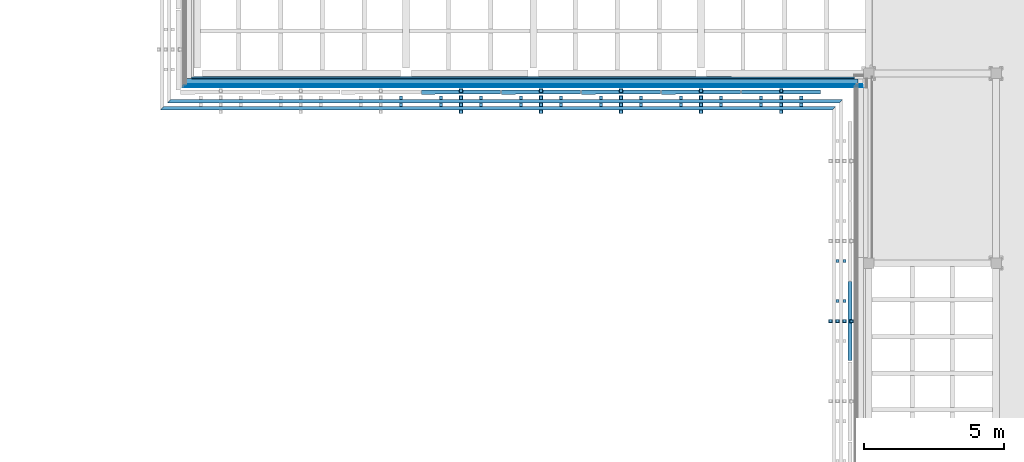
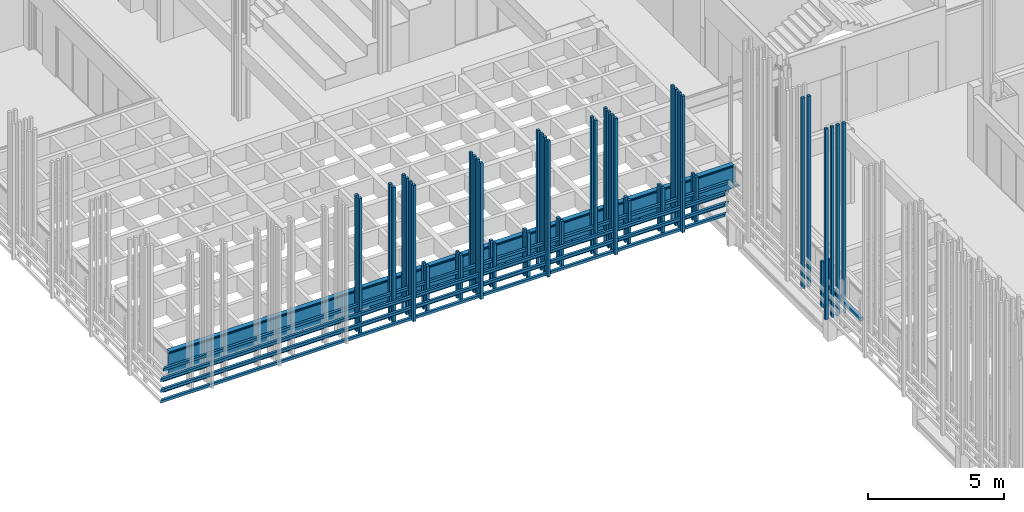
# One storey, part 74 of 139: 28 discrete accessories, 6 building element parts, 1 element without a shape of its own.
"""IFC2X3 building model written with IfcOpenShell, lengths in millimetres."""

from ifc_helpers import new_model, entity, si_unit, converted_unit, derived_unit, money_unit, direction, frame, origin_with_axes, place, context, subcontext, project, spatial, faceted_brep, material, material_list, type_object, element, aggregate, save


model = new_model("IFC2X3")

# Units and contexts
model_context = context("Model", 3, precision=0.01, world=origin_with_axes(), true_north=direction((0.0, 1.0)))
body_context = subcontext(model_context, "Body", "Model", "MODEL_VIEW")
ifc_project = project(units=[si_unit("LENGTHUNIT", "METRE", prefix="MILLI"), si_unit("AREAUNIT", "SQUARE_METRE"), si_unit("VOLUMEUNIT", "CUBIC_METRE"), converted_unit("PLANEANGLEUNIT", "DEGREE", entity("IfcPlaneAngleMeasure", 0.0174532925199), si_unit("PLANEANGLEUNIT", "RADIAN"), dimensions=[0, 0, 0, 0, 0, 0, 0]), money_unit("EUR"), converted_unit("TIMEUNIT", "Year", entity("IfcTimeMeasure", 31556926.0), si_unit("TIMEUNIT", "SECOND"), dimensions=[0, 0, 1, 0, 0, 0, 0]), si_unit("MASSUNIT", "GRAM", prefix="KILO"), si_unit("THERMODYNAMICTEMPERATUREUNIT", "DEGREE_CELSIUS"), si_unit("LUMINOUSINTENSITYUNIT", "LUMEN"), si_unit("ENERGYUNIT", "JOULE", prefix="MEGA"), derived_unit("THERMALCONDUCTANCEUNIT", [(si_unit("POWERUNIT", "WATT"), 1), (si_unit("LENGTHUNIT", "METRE"), -1), (si_unit("THERMODYNAMICTEMPERATUREUNIT", "KELVIN"), -1)]), derived_unit("SPECIFICHEATCAPACITYUNIT", [(si_unit("ENERGYUNIT", "JOULE"), 1), (si_unit("MASSUNIT", "GRAM", prefix="KILO"), -1), (si_unit("THERMODYNAMICTEMPERATUREUNIT", "KELVIN"), -1)]), derived_unit("MASSDENSITYUNIT", [(si_unit("MASSUNIT", "GRAM", prefix="KILO"), 1), (si_unit("VOLUMEUNIT", "CUBIC_METRE"), -1)])], contexts=[model_context])

# Site, building, storey
site_placement = place(None, origin_with_axes())
site = spatial("IfcSite", under=ifc_project, at=site_placement, Name="Kolde pst 67a", CompositionType="ELEMENT")
building_placement = place(site_placement, origin_with_axes())
building = spatial("IfcBuilding", under=site, at=building_placement, Name="Riigigümnaasium", CompositionType="ELEMENT")
storey_placement = place(building_placement, frame((0.0, 0.0, 4600.0), z_axis=(0.0, 0.0, 1.0), x_axis=(1.0, 0.0, 0.0)))
storey = spatial("IfcBuildingStorey", under=building, at=storey_placement, Name="2. korrus", CompositionType="ELEMENT", Elevation=4600.0)

# Discrete accessories
ifc_material_1 = material(Name="_VÄLISVIIMISTLUS - sõrmjätkatud puitprussid 120x115mm, liitekohad vähemärgatavad, Platowood sõrmjätkatud kuusk või samaväärne; eeltöödeldud tuletõkkevõõbaga, tuletundlikkus B-s1, d0, Woodsafe Exterior WFX™ või samaväärne; kinnitused vastavalt EK osale")
ifc_material_list_1 = material_list([ifc_material_1, ifc_material_1, ifc_material_1, ifc_material_1])
discrete_accessory_type_1 = type_object("IfcDiscreteAccessoryType", Name="120 4-ne vertikaalne 870 x 115")
discrete_accessory_1_placement = place(storey_placement, frame((47687.9824571, 15366.869566, 2150.0), z_axis=(0.0, 0.0, 1.0), x_axis=(-0.999999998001, -6.32316306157e-05, 0.0)))
element("IfcDiscreteAccessory", 1, at=discrete_accessory_1_placement, inside=storey, type_object=discrete_accessory_type_1, material=ifc_material_list_1, Name="Päikesevarjestus", context=body_context, shape_type="Brep", body=[
    faceted_brep([(47.9851405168, -70.0, 0.0), (47.9851405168, -70.0, 519.999664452), (47.9851405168, -70.0, 669.999664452), (133.0, -70.0, 669.999664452), (133.0, -70.0, 8580.0), (13.0, -70.0, 8580.0), (13.0, -70.0, 0.0), (47.9924121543, 45.0, 519.999664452), (47.9924121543, 45.0, 0.0), (47.9924121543, 45.0, 669.999664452), (133.0, 45.0, 669.999664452), (133.0, 45.0, 8580.0), (13.0, 45.0, 8580.0), (13.0, 45.0, 0.0)], [[[0, 1, 2, 3, 4, 5, 6]], [[7, 1, 0, 8]], [[1, 7, 9, 2]], [[10, 3, 2, 9]], [[4, 3, 10, 11]], [[5, 4, 11, 12]], [[5, 12, 13, 6]], [[8, 0, 6, 13]], [[7, 8, 13, 12, 11, 10, 9]]]),
    faceted_brep([(383.0, 45.0, 0.0), (263.0, 45.0, 0.0), (263.0, 45.0, 8580.0), (383.0, 45.0, 8580.0), (383.0, -70.0, 0.0), (263.0, -70.0, 0.0), (263.0, -70.0, 8580.0), (383.0, -70.0, 8580.0)], [[[0, 1, 2, 3]], [[0, 4, 5, 1]], [[1, 5, 6, 2]], [[3, 2, 6, 7]], [[4, 0, 3, 7]], [[5, 4, 7, 6]]]),
    faceted_brep([(633.0, 45.0, 0.0), (513.0, 45.0, 0.0), (513.0, 45.0, 8580.0), (633.0, 45.0, 8580.0), (633.0, -70.0, 0.0), (513.0, -70.0, 0.0), (513.0, -70.0, 8580.0), (633.0, -70.0, 8580.0)], [[[0, 1, 2, 3]], [[0, 4, 5, 1]], [[1, 5, 6, 2]], [[3, 2, 6, 7]], [[4, 0, 3, 7]], [[5, 4, 7, 6]]]),
    faceted_brep([(883.0, 45.0, 0.0), (763.0, 45.0, 0.0), (763.0, 45.0, 8580.0), (883.0, 45.0, 8580.0), (883.0, -70.0, 0.0), (763.0, -70.0, 0.0), (763.0, -70.0, 8580.0), (883.0, -70.0, 8580.0)], [[[0, 1, 2, 3]], [[0, 4, 5, 1]], [[1, 5, 6, 2]], [[3, 2, 6, 7]], [[4, 0, 3, 7]], [[5, 4, 7, 6]]]),
])
discrete_accessory_2_placement = place(storey_placement, frame((33647.4928355, 23687.999745, 2150.0), z_axis=(0.0, 0.0, 1.0), x_axis=(-3.13999128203e-06, 0.999999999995, 0.0)))
element("IfcDiscreteAccessory", 2, at=discrete_accessory_2_placement, inside=storey, type_object=discrete_accessory_type_1, material=ifc_material_list_1, Name="Päikesevarjestus", context=body_context, shape_type="Brep", body=[
    faceted_brep([(-47.9186345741, 45.0, 519.999999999), (-47.9120337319, -70.0, 519.999999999), (-47.9120337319, -70.0, 669.999999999), (-47.9186345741, 45.0, 669.999999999), (-47.9120337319, -70.0, 0.0), (-47.9186345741, 45.0, 0.0), (-13.0, -70.0, 0.0), (-13.0, -70.0, 6130.0), (-133.0, -70.0, 6130.0), (-133.0, -70.0, 669.999999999), (-133.0, 45.0, 669.999999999), (-133.0, 45.0, 6130.0), (-13.0, 45.0, 6130.0), (-13.0, 45.0, 0.0)], [[[0, 1, 2, 3]], [[4, 1, 0, 5]], [[1, 4, 6, 7, 8, 9, 2]], [[3, 2, 9, 10]], [[5, 0, 3, 10, 11, 12, 13]], [[4, 5, 13, 6]], [[13, 12, 7, 6]], [[7, 12, 11, 8]], [[11, 10, 9, 8]]]),
    faceted_brep([(-383.0, -70.0, 0.0), (-263.0, -70.0, 0.0), (-263.0, -70.0, 6130.0), (-383.0, -70.0, 6130.0), (-383.0, 45.0, 0.0), (-263.0, 45.0, 0.0), (-263.0, 45.0, 6130.0), (-383.0, 45.0, 6130.0)], [[[0, 1, 2, 3]], [[0, 4, 5, 1]], [[1, 5, 6, 2]], [[3, 2, 6, 7]], [[4, 0, 3, 7]], [[5, 4, 7, 6]]]),
    faceted_brep([(-633.0, -70.0, 0.0), (-513.0, -70.0, 0.0), (-513.0, -70.0, 6130.0), (-633.0, -70.0, 6130.0), (-633.0, 45.0, 0.0), (-513.0, 45.0, 0.0), (-513.0, 45.0, 6130.0), (-633.0, 45.0, 6130.0)], [[[0, 1, 2, 3]], [[0, 4, 5, 1]], [[1, 5, 6, 2]], [[3, 2, 6, 7]], [[4, 0, 3, 7]], [[5, 4, 7, 6]]]),
    faceted_brep([(-883.0, -70.0, 0.0), (-763.0, -70.0, 0.0), (-763.0, -70.0, 6130.0), (-883.0, -70.0, 6130.0), (-883.0, 45.0, 0.0), (-763.0, 45.0, 0.0), (-763.0, 45.0, 6130.0), (-883.0, 45.0, 6130.0)], [[[0, 1, 2, 3]], [[0, 4, 5, 1]], [[1, 5, 6, 2]], [[3, 2, 6, 7]], [[4, 0, 3, 7]], [[5, 4, 7, 6]]]),
])
discrete_accessory_3_placement = place(storey_placement, frame((36507.4928343, 23687.999745, 2150.0), z_axis=(0.0, 0.0, 1.0), x_axis=(-3.13999128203e-06, 0.999999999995, 0.0)))
element("IfcDiscreteAccessory", 3, at=discrete_accessory_3_placement, inside=storey, type_object=discrete_accessory_type_1, material=ifc_material_list_1, Name="Päikesevarjestus", context=body_context, shape_type="Brep", body=[
    faceted_brep([(-47.9186345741, 45.0, 519.999999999), (-47.912033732, -70.0, 519.999999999), (-47.912033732, -70.0, 669.999999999), (-47.9186345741, 45.0, 669.999999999), (-47.912033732, -70.0, 0.0), (-47.9186345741, 45.0, 0.0), (-13.0, -70.0, 0.0), (-13.0, -70.0, 6130.0), (-133.0, -70.0, 6130.0), (-133.0, -70.0, 669.999999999), (-133.0, 45.0, 669.999999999), (-133.0, 45.0, 6130.0), (-13.0, 45.0, 6130.0), (-13.0, 45.0, 0.0)], [[[0, 1, 2, 3]], [[4, 1, 0, 5]], [[1, 4, 6, 7, 8, 9, 2]], [[3, 2, 9, 10]], [[5, 0, 3, 10, 11, 12, 13]], [[4, 5, 13, 6]], [[13, 12, 7, 6]], [[7, 12, 11, 8]], [[11, 10, 9, 8]]]),
    faceted_brep([(-383.0, -70.0, 0.0), (-263.0, -70.0, 0.0), (-263.0, -70.0, 6130.0), (-383.0, -70.0, 6130.0), (-383.0, 45.0, 0.0), (-263.0, 45.0, 0.0), (-263.0, 45.0, 6130.0), (-383.0, 45.0, 6130.0)], [[[0, 1, 2, 3]], [[0, 4, 5, 1]], [[1, 5, 6, 2]], [[3, 2, 6, 7]], [[4, 0, 3, 7]], [[5, 4, 7, 6]]]),
    faceted_brep([(-633.0, -70.0, 0.0), (-513.0, -70.0, 0.0), (-513.0, -70.0, 6130.0), (-633.0, -70.0, 6130.0), (-633.0, 45.0, 0.0), (-513.0, 45.0, 0.0), (-513.0, 45.0, 6130.0), (-633.0, 45.0, 6130.0)], [[[0, 1, 2, 3]], [[0, 4, 5, 1]], [[1, 5, 6, 2]], [[3, 2, 6, 7]], [[4, 0, 3, 7]], [[5, 4, 7, 6]]]),
    faceted_brep([(-883.0, -70.0, 0.0), (-763.0, -70.0, 0.0), (-763.0, -70.0, 6130.0), (-883.0, -70.0, 6130.0), (-883.0, 45.0, 0.0), (-763.0, 45.0, 0.0), (-763.0, 45.0, 6130.0), (-883.0, 45.0, 6130.0)], [[[0, 1, 2, 3]], [[0, 4, 5, 1]], [[1, 5, 6, 2]], [[3, 2, 6, 7]], [[4, 0, 3, 7]], [[5, 4, 7, 6]]]),
])
discrete_accessory_4_placement = place(storey_placement, frame((39367.492833, 23687.999745, 2150.0), z_axis=(0.0, 0.0, 1.0), x_axis=(-3.13999128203e-06, 0.999999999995, 0.0)))
element("IfcDiscreteAccessory", 4, at=discrete_accessory_4_placement, inside=storey, type_object=discrete_accessory_type_1, material=ifc_material_list_1, Name="Päikesevarjestus", context=body_context, shape_type="Brep", body=[
    faceted_brep([(-47.9186345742, 45.0, 519.999999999), (-47.9120337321, -70.0, 519.999999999), (-47.9120337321, -70.0, 669.999999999), (-47.9186345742, 45.0, 669.999999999), (-47.9120337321, -70.0, 0.0), (-47.9186345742, 45.0, 0.0), (-13.0, -70.0, 0.0), (-13.0, -70.0, 6130.0), (-133.0, -70.0, 6130.0), (-133.0, -70.0, 669.999999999), (-133.0, 45.0, 669.999999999), (-133.0, 45.0, 6130.0), (-13.0, 45.0, 6130.0), (-13.0, 45.0, 0.0)], [[[0, 1, 2, 3]], [[4, 1, 0, 5]], [[1, 4, 6, 7, 8, 9, 2]], [[3, 2, 9, 10]], [[5, 0, 3, 10, 11, 12, 13]], [[4, 5, 13, 6]], [[13, 12, 7, 6]], [[7, 12, 11, 8]], [[11, 10, 9, 8]]]),
    faceted_brep([(-383.0, -70.0, 0.0), (-263.0, -70.0, 0.0), (-263.0, -70.0, 6130.0), (-383.0, -70.0, 6130.0), (-383.0, 45.0, 0.0), (-263.0, 45.0, 0.0), (-263.0, 45.0, 6130.0), (-383.0, 45.0, 6130.0)], [[[0, 1, 2, 3]], [[0, 4, 5, 1]], [[1, 5, 6, 2]], [[3, 2, 6, 7]], [[4, 0, 3, 7]], [[5, 4, 7, 6]]]),
    faceted_brep([(-633.0, -70.0, 0.0), (-513.0, -70.0, 0.0), (-513.0, -70.0, 6130.0), (-633.0, -70.0, 6130.0), (-633.0, 45.0, 0.0), (-513.0, 45.0, 0.0), (-513.0, 45.0, 6130.0), (-633.0, 45.0, 6130.0)], [[[0, 1, 2, 3]], [[0, 4, 5, 1]], [[1, 5, 6, 2]], [[3, 2, 6, 7]], [[4, 0, 3, 7]], [[5, 4, 7, 6]]]),
    faceted_brep([(-883.0, -70.0, 0.0), (-763.0, -70.0, 0.0), (-763.0, -70.0, 6130.0), (-883.0, -70.0, 6130.0), (-883.0, 45.0, 0.0), (-763.0, 45.0, 0.0), (-763.0, 45.0, 6130.0), (-883.0, 45.0, 6130.0)], [[[0, 1, 2, 3]], [[0, 4, 5, 1]], [[1, 5, 6, 2]], [[3, 2, 6, 7]], [[4, 0, 3, 7]], [[5, 4, 7, 6]]]),
])
discrete_accessory_5_placement = place(storey_placement, frame((42227.4928071, 23687.999745, 2150.0), z_axis=(0.0, 0.0, 1.0), x_axis=(-3.13999128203e-06, 0.999999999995, 0.0)))
element("IfcDiscreteAccessory", 5, at=discrete_accessory_5_placement, inside=storey, type_object=discrete_accessory_type_1, material=ifc_material_list_1, Name="Päikesevarjestus", context=body_context, shape_type="Brep", body=[
    faceted_brep([(-47.9186345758, 45.0, 519.999999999), (-47.9120337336, -70.0, 519.999999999), (-47.9120337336, -70.0, 669.999999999), (-47.9186345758, 45.0, 669.999999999), (-47.9120337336, -70.0, 0.0), (-47.9186345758, 45.0, 0.0), (-13.0, -70.0, 0.0), (-13.0, -70.0, 6130.0), (-133.0, -70.0, 6130.0), (-133.0, -70.0, 669.999999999), (-133.0, 45.0, 669.999999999), (-133.0, 45.0, 6130.0), (-13.0, 45.0, 6130.0), (-13.0, 45.0, 0.0)], [[[0, 1, 2, 3]], [[4, 1, 0, 5]], [[1, 4, 6, 7, 8, 9, 2]], [[3, 2, 9, 10]], [[5, 0, 3, 10, 11, 12, 13]], [[4, 5, 13, 6]], [[13, 12, 7, 6]], [[7, 12, 11, 8]], [[11, 10, 9, 8]]]),
    faceted_brep([(-383.0, -70.0, 0.0), (-263.0, -70.0, 0.0), (-263.0, -70.0, 6130.0), (-383.0, -70.0, 6130.0), (-383.0, 45.0, 0.0), (-263.0, 45.0, 0.0), (-263.0, 45.0, 6130.0), (-383.0, 45.0, 6130.0)], [[[0, 1, 2, 3]], [[0, 4, 5, 1]], [[1, 5, 6, 2]], [[3, 2, 6, 7]], [[4, 0, 3, 7]], [[5, 4, 7, 6]]]),
    faceted_brep([(-633.0, -70.0, 0.0), (-513.0, -70.0, 0.0), (-513.0, -70.0, 6130.0), (-633.0, -70.0, 6130.0), (-633.0, 45.0, 0.0), (-513.0, 45.0, 0.0), (-513.0, 45.0, 6130.0), (-633.0, 45.0, 6130.0)], [[[0, 1, 2, 3]], [[0, 4, 5, 1]], [[1, 5, 6, 2]], [[3, 2, 6, 7]], [[4, 0, 3, 7]], [[5, 4, 7, 6]]]),
    faceted_brep([(-883.0, -70.0, 0.0), (-763.0, -70.0, 0.0), (-763.0, -70.0, 6130.0), (-883.0, -70.0, 6130.0), (-883.0, 45.0, 0.0), (-763.0, 45.0, 0.0), (-763.0, 45.0, 6130.0), (-883.0, 45.0, 6130.0)], [[[0, 1, 2, 3]], [[0, 4, 5, 1]], [[1, 5, 6, 2]], [[3, 2, 6, 7]], [[4, 0, 3, 7]], [[5, 4, 7, 6]]]),
])
discrete_accessory_6_placement = place(storey_placement, frame((45087.4927862, 23687.999745, 2150.0), z_axis=(0.0, 0.0, 1.0), x_axis=(-3.13999128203e-06, 0.999999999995, 0.0)))
element("IfcDiscreteAccessory", 6, at=discrete_accessory_6_placement, inside=storey, type_object=discrete_accessory_type_1, material=ifc_material_list_1, Name="Päikesevarjestus", context=body_context, shape_type="Brep", body=[
    faceted_brep([(-47.7454941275, 45.0, 519.999999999), (-47.7388932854, -70.0, 519.999999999), (-47.7388932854, -70.0, 669.999999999), (-47.7454941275, 45.0, 669.999999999), (-47.7388932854, -70.0, 0.0), (-47.7454941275, 45.0, 0.0), (-13.0, -70.0, 0.0), (-13.0, -70.0, 6130.0), (-133.0, -70.0, 6130.0), (-133.0, -70.0, 669.999999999), (-133.0, 45.0, 669.999999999), (-133.0, 45.0, 6130.0), (-13.0, 45.0, 6130.0), (-13.0, 45.0, 0.0)], [[[0, 1, 2, 3]], [[4, 1, 0, 5]], [[1, 4, 6, 7, 8, 9, 2]], [[3, 2, 9, 10]], [[5, 0, 3, 10, 11, 12, 13]], [[4, 5, 13, 6]], [[13, 12, 7, 6]], [[7, 12, 11, 8]], [[11, 10, 9, 8]]]),
    faceted_brep([(-383.0, -70.0, 0.0), (-263.0, -70.0, 0.0), (-263.0, -70.0, 6130.0), (-383.0, -70.0, 6130.0), (-383.0, 45.0, 0.0), (-263.0, 45.0, 0.0), (-263.0, 45.0, 6130.0), (-383.0, 45.0, 6130.0)], [[[0, 1, 2, 3]], [[0, 4, 5, 1]], [[1, 5, 6, 2]], [[3, 2, 6, 7]], [[4, 0, 3, 7]], [[5, 4, 7, 6]]]),
    faceted_brep([(-633.0, -70.0, 0.0), (-513.0, -70.0, 0.0), (-513.0, -70.0, 6130.0), (-633.0, -70.0, 6130.0), (-633.0, 45.0, 0.0), (-513.0, 45.0, 0.0), (-513.0, 45.0, 6130.0), (-633.0, 45.0, 6130.0)], [[[0, 1, 2, 3]], [[0, 4, 5, 1]], [[1, 5, 6, 2]], [[3, 2, 6, 7]], [[4, 0, 3, 7]], [[5, 4, 7, 6]]]),
    faceted_brep([(-883.0, -70.0, 0.0), (-763.0, -70.0, 0.0), (-763.0, -70.0, 6130.0), (-883.0, -70.0, 6130.0), (-883.0, 45.0, 0.0), (-763.0, 45.0, 0.0), (-763.0, 45.0, 6130.0), (-883.0, 45.0, 6130.0)], [[[0, 1, 2, 3]], [[0, 4, 5, 1]], [[1, 5, 6, 2]], [[3, 2, 6, 7]], [[4, 0, 3, 7]], [[5, 4, 7, 6]]]),
])
ifc_material_list_2 = material_list([ifc_material_1, ifc_material_1])
discrete_accessory_type_2 = type_object("IfcDiscreteAccessoryType", Name="1+paiksekaitse 4 tk nihkes 2 370 x 355")
discrete_accessory_7_placement = place(storey_placement, frame((23675.0058924, 23674.9999727, 2630.0), z_axis=(0.0, 0.0, 1.0), x_axis=(0.0, -1.0, 0.0)))
element("IfcDiscreteAccessory", 7, at=discrete_accessory_7_placement, inside=storey, type_object=discrete_accessory_type_2, material=ifc_material_list_2, Name="Päikesevarjestus", context=body_context, shape_type="Brep", body=[
    faceted_brep([(375.0, 23624.9782799, 347.001360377), (375.0, -375.0, 347.001360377), (495.0, -495.0, 357.5), (495.0, 23504.9784938, 357.5), (375.0, 23624.9782799, 242.5), (375.0, -375.0, 242.5), (495.0, -495.0, 242.5), (495.0, 23504.9784938, 242.5)], [[[0, 1, 2, 3]], [[4, 5, 1, 0]], [[5, 6, 2, 1]], [[3, 2, 6, 7]], [[4, 0, 3, 7]], [[7, 6, 5, 4]]]),
    faceted_brep([(625.0, 23374.9787255, 107.001360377), (625.0, -625.0, 107.001360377), (745.0, -745.0, 117.5), (745.0, 23254.9789394, 117.5), (625.0, 23374.9787255, 2.5), (625.0, -625.0, 2.5), (745.0, -745.0, 2.5), (745.0, 23254.9789394, 2.5)], [[[0, 1, 2, 3]], [[4, 5, 1, 0]], [[5, 6, 2, 1]], [[3, 2, 6, 7]], [[4, 0, 3, 7]], [[7, 6, 5, 4]]]),
])
discrete_accessory_8_placement = place(storey_placement, frame((23675.0058924, 23674.9999727, 3110.0), z_axis=(0.0, 0.0, 1.0), x_axis=(0.0, -1.0, 0.0)))
element("IfcDiscreteAccessory", 8, at=discrete_accessory_8_placement, inside=storey, type_object=discrete_accessory_type_2, material=ifc_material_list_2, Name="Päikesevarjestus", context=body_context, shape_type="Brep", body=[
    faceted_brep([(495.0, 23504.9784938, 357.5), (375.0, 23624.9782799, 347.001360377), (375.0, -375.0, 347.001360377), (495.0, -495.0, 357.5), (495.0, 23504.9784938, 242.5), (375.0, 23624.9782799, 242.5), (375.0, -375.0, 242.5), (495.0, -495.0, 242.5)], [[[0, 1, 2, 3]], [[4, 5, 1, 0]], [[1, 5, 6, 2]], [[2, 6, 7, 3]], [[4, 0, 3, 7]], [[5, 4, 7, 6]]]),
    faceted_brep([(625.0, 23374.9787255, 107.001360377), (625.0, -625.0, 107.001360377), (745.0, -745.0, 117.5), (745.0, 23254.9789394, 117.5), (625.0, 23374.9787255, 2.5), (625.0, -625.0, 2.5), (745.0, -745.0, 2.5), (745.0, 23254.9789394, 2.5)], [[[0, 1, 2, 3]], [[4, 5, 1, 0]], [[5, 6, 2, 1]], [[3, 2, 6, 7]], [[4, 0, 3, 7]], [[7, 6, 5, 4]]]),
])
discrete_accessory_9_placement = place(storey_placement, frame((23675.0058924, 23674.9999727, 2150.0), z_axis=(0.0, 0.0, 1.0), x_axis=(0.0, -1.0, 0.0)))
element("IfcDiscreteAccessory", 9, at=discrete_accessory_9_placement, inside=storey, type_object=discrete_accessory_type_2, material=ifc_material_list_2, Name="Päikesevarjestus", context=body_context, shape_type="Brep", body=[
    faceted_brep([(375.0, 23624.9782799, 347.001360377), (375.0, -375.0, 347.001360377), (495.0, -495.0, 357.5), (495.0, 23504.9784938, 357.5), (375.0, 23624.9782799, 242.5), (375.0, -375.0, 242.5), (495.0, -495.0, 242.5), (495.0, 23504.9784938, 242.5)], [[[0, 1, 2, 3]], [[4, 5, 1, 0]], [[5, 6, 2, 1]], [[3, 2, 6, 7]], [[4, 0, 3, 7]], [[7, 6, 5, 4]]]),
    faceted_brep([(625.0, 23374.9787255, 107.001360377), (625.0, -625.0, 107.001360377), (745.0, -745.0, 117.5), (745.0, 23254.9789394, 117.5), (625.0, 23374.9787255, 2.5), (625.0, -625.0, 2.5), (745.0, -745.0, 2.5), (745.0, 23254.9789394, 2.5)], [[[0, 1, 2, 3]], [[4, 5, 1, 0]], [[5, 6, 2, 1]], [[3, 2, 6, 7]], [[4, 0, 3, 7]], [[7, 6, 5, 4]]]),
])
discrete_accessory_type_3 = type_object("IfcDiscreteAccessoryType", Name="1+paiksekaitse 3 370 x 115")
discrete_accessory_10_placement = place(storey_placement, frame((31575.0059762, 22707.9999727, 2150.0), z_axis=(0.0, 0.0, 1.0), x_axis=(0.0, 1.0, 0.0)))
element("IfcDiscreteAccessory", 10, at=discrete_accessory_10_placement, inside=storey, type_object=discrete_accessory_type_3, material=ifc_material_list_2, Name="Päikesevarjestus", context=body_context, shape_type="Brep", body=[
    faceted_brep([(467.0, 117.5, 0.0), (347.0, 117.5, 0.0), (347.0, 117.5, 6130.0), (467.0, 117.5, 6130.0), (467.0, 2.5, 0.0), (347.0, 2.5, 0.0), (347.0, 2.5, 6130.0), (467.0, 2.5, 6130.0)], [[[0, 1, 2, 3]], [[0, 4, 5, 1]], [[1, 5, 6, 2]], [[3, 2, 6, 7]], [[4, 0, 3, 7]], [[5, 4, 7, 6]]]),
    faceted_brep([(717.0, 117.5, 0.0), (597.0, 117.5, 0.0), (597.0, 117.5, 6130.0), (717.0, 117.5, 6130.0), (717.0, 2.5, 0.0), (597.0, 2.5, 0.0), (597.0, 2.5, 6130.0), (717.0, 2.5, 6130.0)], [[[0, 1, 2, 3]], [[0, 4, 5, 1]], [[1, 5, 6, 2]], [[3, 2, 6, 7]], [[4, 0, 3, 7]], [[5, 4, 7, 6]]]),
])
discrete_accessory_11_placement = place(storey_placement, frame((40155.0059762, 22707.9999727, 2150.0), z_axis=(0.0, 0.0, 1.0), x_axis=(0.0, 1.0, 0.0)))
element("IfcDiscreteAccessory", 11, at=discrete_accessory_11_placement, inside=storey, type_object=discrete_accessory_type_3, material=ifc_material_list_2, Name="Päikesevarjestus", context=body_context, shape_type="Brep", body=[
    faceted_brep([(467.0, 117.5, 0.0), (347.0, 117.5, 0.0), (347.0, 117.5, 2099.99999915), (467.0, 117.5, 2099.99999915), (467.0, 2.5, 0.0), (347.0, 2.5, 0.0), (347.0, 2.5, 2099.99999915), (467.0, 2.5, 2099.99999915)], [[[0, 1, 2, 3]], [[0, 4, 5, 1]], [[1, 5, 6, 2]], [[3, 2, 6, 7]], [[4, 0, 3, 7]], [[5, 4, 7, 6]]]),
    faceted_brep([(717.0, 117.5, 0.0), (597.0, 117.5, 0.0), (597.0, 117.5, 2099.99999915), (717.0, 117.5, 2099.99999915), (717.0, 2.5, 0.0), (597.0, 2.5, 0.0), (597.0, 2.5, 2099.99999915), (717.0, 2.5, 2099.99999915)], [[[0, 1, 2, 3]], [[0, 4, 5, 1]], [[1, 5, 6, 2]], [[3, 2, 6, 7]], [[4, 0, 3, 7]], [[5, 4, 7, 6]]]),
])
discrete_accessory_12_placement = place(storey_placement, frame((41585.0059762, 22707.9999727, 2150.0), z_axis=(0.0, 0.0, 1.0), x_axis=(0.0, 1.0, 0.0)))
element("IfcDiscreteAccessory", 12, at=discrete_accessory_12_placement, inside=storey, type_object=discrete_accessory_type_3, material=ifc_material_list_2, Name="Päikesevarjestus", context=body_context, shape_type="Brep", body=[
    faceted_brep([(467.0, 117.5, 0.0), (347.0, 117.5, 0.0), (347.0, 117.5, 6130.0), (467.0, 117.5, 6130.0), (467.0, 2.5, 0.0), (347.0, 2.5, 0.0), (347.0, 2.5, 6130.0), (467.0, 2.5, 6130.0)], [[[0, 1, 2, 3]], [[0, 4, 5, 1]], [[1, 5, 6, 2]], [[3, 2, 6, 7]], [[4, 0, 3, 7]], [[5, 4, 7, 6]]]),
    faceted_brep([(717.0, 117.5, 0.0), (597.0, 117.5, 0.0), (597.0, 117.5, 6130.0), (717.0, 117.5, 6130.0), (717.0, 2.5, 0.0), (597.0, 2.5, 0.0), (597.0, 2.5, 6130.0), (717.0, 2.5, 6130.0)], [[[0, 1, 2, 3]], [[0, 4, 5, 1]], [[1, 5, 6, 2]], [[3, 2, 6, 7]], [[4, 0, 3, 7]], [[5, 4, 7, 6]]]),
])
discrete_accessory_13_placement = place(storey_placement, frame((43015.0059762, 22707.9999727, 2150.0), z_axis=(0.0, 0.0, 1.0), x_axis=(0.0, 1.0, 0.0)))
element("IfcDiscreteAccessory", 13, at=discrete_accessory_13_placement, inside=storey, type_object=discrete_accessory_type_3, material=ifc_material_list_2, Name="Päikesevarjestus", context=body_context, shape_type="Brep", body=[
    faceted_brep([(467.0, 117.5, 0.0), (347.0, 117.5, 0.0), (347.0, 117.5, 2040.0), (467.0, 117.5, 2040.0), (467.0, 2.5, 0.0), (347.0, 2.5, 0.0), (347.0, 2.5, 2040.0), (467.0, 2.5, 2040.0)], [[[0, 1, 2, 3]], [[0, 4, 5, 1]], [[1, 5, 6, 2]], [[3, 2, 6, 7]], [[4, 0, 3, 7]], [[5, 4, 7, 6]]]),
    faceted_brep([(717.0, 117.5, 0.0), (597.0, 117.5, 0.0), (597.0, 117.5, 2040.0), (717.0, 117.5, 2040.0), (717.0, 2.5, 0.0), (597.0, 2.5, 0.0), (597.0, 2.5, 2040.0), (717.0, 2.5, 2040.0)], [[[0, 1, 2, 3]], [[0, 4, 5, 1]], [[1, 5, 6, 2]], [[3, 2, 6, 7]], [[4, 0, 3, 7]], [[5, 4, 7, 6]]]),
])
discrete_accessory_14_placement = place(storey_placement, frame((33005.0059762, 22707.9999727, 2150.0), z_axis=(0.0, 0.0, 1.0), x_axis=(0.0, 1.0, 0.0)))
element("IfcDiscreteAccessory", 14, at=discrete_accessory_14_placement, inside=storey, type_object=discrete_accessory_type_3, material=ifc_material_list_2, Name="Päikesevarjestus", context=body_context, shape_type="Brep", body=[
    faceted_brep([(467.0, 117.5, 0.0), (347.0, 117.5, 0.0), (347.0, 117.5, 6130.0), (467.0, 117.5, 6130.0), (467.0, 2.5, 0.0), (347.0, 2.5, 0.0), (347.0, 2.5, 6130.0), (467.0, 2.5, 6130.0)], [[[0, 1, 2, 3]], [[0, 4, 5, 1]], [[1, 5, 6, 2]], [[3, 2, 6, 7]], [[4, 0, 3, 7]], [[5, 4, 7, 6]]]),
    faceted_brep([(717.0, 117.5, 0.0), (597.0, 117.5, 0.0), (597.0, 117.5, 6130.0), (717.0, 117.5, 6130.0), (717.0, 2.5, 0.0), (597.0, 2.5, 0.0), (597.0, 2.5, 6130.0), (717.0, 2.5, 6130.0)], [[[0, 1, 2, 3]], [[0, 4, 5, 1]], [[1, 5, 6, 2]], [[3, 2, 6, 7]], [[4, 0, 3, 7]], [[5, 4, 7, 6]]]),
])
for number, where, z_axis, x_axis in (
    (15, (34435.0059762, 22707.9999727, 2150.0), (0.0, 0.0, 1.0), (0.0, 1.0, 0.0)),
    (16, (35865.0059762, 22707.9999727, 2150.0), (0.0, 0.0, 1.0), (0.0, 1.0, 0.0)),
    (17, (37295.0059762, 22707.9999727, 2150.0), (0.0, 0.0, 1.0), (0.0, 1.0, 0.0)),
    (18, (38725.0059762, 22707.9999727, 2150.0), (0.0, 0.0, 1.0), (0.0, 1.0, 0.0)),
    (19, (44445.0059762, 22707.9999727, 2150.0), (0.0, 0.0, 1.0), (0.0, 1.0, 0.0)),
    (20, (45875.0059762, 22707.9999727, 2150.0), (0.0, 0.0, 1.0), (0.0, 1.0, 0.0)),
):
    element("IfcDiscreteAccessory", number, at=place(storey_placement, frame(where, z_axis=z_axis, x_axis=x_axis)), inside=storey, type_object=discrete_accessory_type_3, material=ifc_material_list_2, Name="Päikesevarjestus", context=body_context, shape_type="Brep", body=[
        faceted_brep([(467.0, 117.5, 0.0), (347.0, 117.5, 0.0), (347.0, 117.5, 2090.0), (467.0, 117.5, 2090.0), (467.0, 2.5, 0.0), (347.0, 2.5, 0.0), (347.0, 2.5, 2090.0), (467.0, 2.5, 2090.0)], [[[0, 1, 2, 3]], [[0, 4, 5, 1]], [[1, 5, 6, 2]], [[3, 2, 6, 7]], [[4, 0, 3, 7]], [[5, 4, 7, 6]]]),
        faceted_brep([(717.0, 117.5, 0.0), (597.0, 117.5, 0.0), (597.0, 117.5, 2090.0), (717.0, 117.5, 2090.0), (717.0, 2.5, 0.0), (597.0, 2.5, 0.0), (597.0, 2.5, 2090.0), (717.0, 2.5, 2090.0)], [[[0, 1, 2, 3]], [[0, 4, 5, 1]], [[1, 5, 6, 2]], [[3, 2, 6, 7]], [[4, 0, 3, 7]], [[5, 4, 7, 6]]]),
    ])
discrete_accessory_15_placement = place(storey_placement, frame((46707.9854612, 17464.9192401, 2150.0), z_axis=(0.0, 0.0, 1.0), x_axis=(1.0, 0.0, 0.0)))
element("IfcDiscreteAccessory", 21, at=discrete_accessory_15_placement, inside=storey, type_object=discrete_accessory_type_3, material=ifc_material_list_2, Name="Päikesevarjestus", context=body_context, shape_type="Brep", body=[
    faceted_brep([(467.0, 117.5, 0.0), (347.0, 117.5, 0.0), (347.0, 117.5, 8580.0), (467.0, 117.5, 8580.0), (467.0, 2.5, 0.0), (347.0, 2.5, 0.0), (347.0, 2.5, 8580.0), (467.0, 2.5, 8580.0)], [[[0, 1, 2, 3]], [[0, 4, 5, 1]], [[1, 5, 6, 2]], [[3, 2, 6, 7]], [[4, 0, 3, 7]], [[5, 4, 7, 6]]]),
    faceted_brep([(717.0, 117.5, 0.0), (597.0, 117.5, 0.0), (597.0, 117.5, 8580.0), (717.0, 117.5, 8580.0), (717.0, 2.5, 0.0), (597.0, 2.5, 0.0), (597.0, 2.5, 8580.0), (717.0, 2.5, 8580.0)], [[[0, 1, 2, 3]], [[0, 4, 5, 1]], [[1, 5, 6, 2]], [[3, 2, 6, 7]], [[4, 0, 3, 7]], [[5, 4, 7, 6]]]),
])
discrete_accessory_16_placement = place(storey_placement, frame((46707.9854612, 16034.9192401, 2150.0), z_axis=(0.0, 0.0, 1.0), x_axis=(1.0, 0.0, 0.0)))
element("IfcDiscreteAccessory", 22, at=discrete_accessory_16_placement, inside=storey, type_object=discrete_accessory_type_3, material=ifc_material_list_2, Name="Päikesevarjestus", context=body_context, shape_type="Brep", body=[
    faceted_brep([(467.0, 117.5, 0.0), (347.0, 117.5, 0.0), (347.0, 117.5, 2090.0), (467.0, 117.5, 2090.0), (467.0, 2.5, 0.0), (347.0, 2.5, 0.0), (347.0, 2.5, 2090.0), (467.0, 2.5, 2090.0)], [[[0, 1, 2, 3]], [[0, 4, 5, 1]], [[1, 5, 6, 2]], [[3, 2, 6, 7]], [[4, 0, 3, 7]], [[5, 4, 7, 6]]]),
    faceted_brep([(717.0, 117.5, 0.0), (597.0, 117.5, 0.0), (597.0, 117.5, 2090.0), (717.0, 117.5, 2090.0), (717.0, 2.5, 0.0), (597.0, 2.5, 0.0), (597.0, 2.5, 2090.0), (717.0, 2.5, 2090.0)], [[[0, 1, 2, 3]], [[0, 4, 5, 1]], [[1, 5, 6, 2]], [[3, 2, 6, 7]], [[4, 0, 3, 7]], [[5, 4, 7, 6]]]),
])
ifc_material_2 = material(Name="_METALL - alumiinium")
discrete_accessory_type_4 = type_object("IfcDiscreteAccessoryType", Name="_METALL - alumiinium 155 x 150")
for number, where, z_axis, x_axis in (
    (23, (32252.5043534, 23562.4992426, 2745.0), (0.0, 0.0, 1.0), (6.05386186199e-05, -0.999999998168, 0.0)),
    (24, (35112.5077572, 23562.4992428, 2745.0), (0.0, 0.0, 1.0), (6.05386186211e-05, -0.999999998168, 0.0)),
):
    element("IfcDiscreteAccessory", number, at=place(storey_placement, frame(where, z_axis=z_axis, x_axis=x_axis)), inside=storey, type_object=discrete_accessory_type_4, material=ifc_material_2, Name="Kardinvarjestus", context=body_context, shape_type="Brep", body=[
        faceted_brep([(77.5, 0.0, 75.0), (77.5, 2814.99986924, 75.0), (-77.5, 2814.99986924, 75.0), (-77.5, 0.0, 75.0), (77.5, 0.0, -75.0), (77.5, 2814.99986924, -75.0), (-77.5, 2814.99986924, -75.0), (-77.5, 0.0, -75.0)], [[[0, 1, 2, 3]], [[4, 5, 1, 0]], [[2, 1, 5, 6]], [[3, 2, 6, 7]], [[4, 0, 3, 7]], [[7, 6, 5, 4]]]),
    ])
discrete_accessory_17_placement = place(storey_placement, frame((37972.5077572, 23562.4992428, 2745.0), z_axis=(0.0, 0.0, 1.0), x_axis=(6.05386186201e-05, -0.999999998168, 0.0)))
element("IfcDiscreteAccessory", 25, at=discrete_accessory_17_placement, inside=storey, type_object=discrete_accessory_type_4, material=ifc_material_2, Name="Kardinvarjestus", context=body_context, shape_type="Brep", body=[
    faceted_brep([(77.5, 0.0, 75.0), (77.5, 2814.99684231, 75.0), (-77.5, 2814.99684231, 75.0), (-77.5, 0.0, 75.0), (77.5, 0.0, -75.0), (77.5, 2814.99684231, -75.0), (-77.5, 2814.99684231, -75.0), (-77.5, 0.0, -75.0)], [[[0, 1, 2, 3]], [[4, 5, 1, 0]], [[2, 1, 5, 6]], [[3, 2, 6, 7]], [[4, 0, 3, 7]], [[7, 6, 5, 4]]]),
])
discrete_accessory_18_placement = place(storey_placement, frame((40832.5043534, 23562.4992426, 2745.0), z_axis=(0.0, 0.0, 1.0), x_axis=(6.05386186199e-05, -0.999999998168, 0.0)))
element("IfcDiscreteAccessory", 26, at=discrete_accessory_18_placement, inside=storey, type_object=discrete_accessory_type_4, material=ifc_material_2, Name="Kardinvarjestus", context=body_context, shape_type="Brep", body=[
    faceted_brep([(77.5, 0.0, 75.0), (77.5, 2814.99986924, 75.0), (-77.5, 2814.99986924, 75.0), (-77.5, 0.0, 75.0), (77.5, 0.0, -75.0), (77.5, 2814.99986924, -75.0), (-77.5, 2814.99986924, -75.0), (-77.5, 0.0, -75.0)], [[[0, 1, 2, 3]], [[4, 5, 1, 0]], [[2, 1, 5, 6]], [[3, 2, 6, 7]], [[4, 0, 3, 7]], [[7, 6, 5, 4]]]),
])
discrete_accessory_19_placement = place(storey_placement, frame((43692.5073699, 23562.6723832, 2745.0), z_axis=(0.0, 0.0, 1.0), x_axis=(6.05386186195e-05, -0.999999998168, 0.0)))
element("IfcDiscreteAccessory", 27, at=discrete_accessory_19_placement, inside=storey, type_object=discrete_accessory_type_4, material=ifc_material_2, Name="Kardinvarjestus", context=body_context, shape_type="Brep", body=[
    faceted_brep([(77.5, 0.0, 75.0), (77.5, 2814.99868112, 75.0), (-77.5, 2814.99868112, 75.0), (-77.5, 0.0, 75.0), (77.5, 0.0, -75.0), (77.5, 2814.99868112, -75.0), (-77.5, 2814.99868112, -75.0), (-77.5, 0.0, -75.0)], [[[0, 1, 2, 3]], [[4, 5, 1, 0]], [[2, 1, 5, 6]], [[3, 2, 6, 7]], [[4, 0, 3, 7]], [[7, 6, 5, 4]]]),
])
discrete_accessory_20_placement = place(storey_placement, frame((47562.4928905, 13971.7336141, 2744.99966445), z_axis=(0.0, 0.0, 1.0), x_axis=(1.0, 0.0, 0.0)))
element("IfcDiscreteAccessory", 28, at=discrete_accessory_20_placement, inside=storey, type_object=discrete_accessory_type_4, material=ifc_material_2, Name="Kardinvarjestus", context=body_context, shape_type="Brep", body=[
    faceted_brep([(77.5, 0.0, 75.0), (77.5, 2814.9998744, 75.0), (-77.5, 2814.9998744, 75.0), (-77.5, 0.0, 75.0), (77.5, 0.0, -75.0), (77.5, 2814.9998744, -75.0), (-77.5, 2814.9998744, -75.0), (-77.5, 0.0, -75.0)], [[[0, 1, 2, 3]], [[4, 5, 1, 0]], [[2, 1, 5, 6]], [[3, 2, 6, 7]], [[4, 0, 3, 7]], [[7, 6, 5, 4]]]),
])

# Wall, building element parts
wall_type = type_object("IfcWallType", Name="VS-CLT-16/4_soojust 200+70soojustus+laudis 382", PredefinedType="NOTDEFINED")
wall_placement = place(storey_placement, frame((48039.9854607, 24039.9999727, 2659.99917802), z_axis=(0.0, 0.0, 1.0), x_axis=(-1.0, 0.0, 0.0)))
wall = element("IfcWall", 29, at=wall_placement, inside=storey, type_object=wall_type, Name="Välissein")
ifc_material_3 = material(Name="_VÄLISVIIMISTLUS - vertikaalne voodrilaud, Platowood P01 profiil 18x140mm, kuusk; eeltöödeldud tuletõkkega mõlemad küljed, B-s1, d0, Woodsafe Exterior WFX™ või samaväärne")
building_element_part_1_placement = place(wall_placement, origin_with_axes())
building_element_part_1 = element("IfcBuildingElementPart", 30, at=building_element_part_1_placement, material=ifc_material_3, Name="_VÄLISVIIMISTLUS - vertikaalne voodrilaud, Platowood P01 profiil 18x140mm, kuusk; eeltöödeldud tuletõkkega mõlemad küljed, B-s1, d0, Woodsafe Exterior WFX™ või samaväärne", context=body_context, shape_type="Brep", body=[
    faceted_brep([(24311.9827265, 294.0, 940.000821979), (312.0, 294.0, 940.000821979), (312.0, 293.999998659, 10.0003121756), (0.0, 293.999998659, 10.0003121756), (0.0, 293.999998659, 0.0), (24311.9827265, 293.999999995, 0.0), (24311.9827265, 312.0, 940.000821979), (312.0, 312.0, 940.000821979), (312.0, 312.0, 10.0003121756), (0.0, 312.0, 10.0003121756), (0.0, 312.0, 0.0), (24311.9827265, 312.0, 0.0)], [[[0, 1, 2, 3, 4, 5]], [[6, 7, 1, 0]], [[8, 2, 1, 7]], [[9, 3, 2, 8]], [[4, 3, 9, 10]], [[11, 5, 4, 10]], [[6, 0, 5, 11]], [[9, 8, 7, 6, 11, 10]]]),
])
ifc_material_4 = material(Name="_KARKASS - puitroov 32x50mm horisontaalne, immutatud Driconi tulekaitsevahendiga või samaväärne, samm 600mm")
building_element_part_2_placement = place(wall_placement, origin_with_axes())
building_element_part_2 = element("IfcBuildingElementPart", 31, at=building_element_part_2_placement, material=ifc_material_4, Name="_KARKASS - puitroov 32x50mm horisontaalne, immutatud Driconi tulekaitsevahendiga või samaväärne, samm 600mm", context=body_context, shape_type="Brep", body=[
    faceted_brep([(24293.9827265, 262.0, 940.000821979), (294.0, 262.0, 940.000821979), (294.0, 262.0, 10.0003121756), (0.0, 262.0, 10.0003121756), (0.0, 262.0, 0.0), (24293.9827265, 262.0, 0.0), (24293.9827265, 294.0, 940.000821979), (294.0, 294.0, 940.000821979), (294.0, 293.999998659, 10.0003121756), (0.0, 293.999998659, 10.0003121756), (0.0, 293.999998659, 0.0), (24293.9827265, 293.999999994, 0.0)], [[[0, 1, 2, 3, 4, 5]], [[6, 7, 1, 0]], [[8, 2, 1, 7]], [[9, 3, 2, 8]], [[4, 3, 9, 10]], [[11, 5, 4, 10]], [[6, 0, 5, 11]], [[9, 8, 7, 6, 11, 10]]]),
])
ifc_material_5 = material(Name="_KARKASS - puitroov 32x50mm vertikaalne, immutatud Driconi tulekaitsevahendiga või samaväärne, samm 600mm")
building_element_part_3_placement = place(wall_placement, origin_with_axes())
building_element_part_3 = element("IfcBuildingElementPart", 32, at=building_element_part_3_placement, material=ifc_material_5, Name="_KARKASS - puitroov 32x50mm vertikaalne, immutatud Driconi tulekaitsevahendiga või samaväärne, samm 600mm", context=body_context, shape_type="Brep", body=[
    faceted_brep([(24261.9827265, 230.0, 940.000821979), (262.0, 230.0, 940.000821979), (262.0, 229.999999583, 10.0003121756), (0.0, 229.999999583, 10.0003121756), (0.0, 229.999999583, 0.0), (24261.9827265, 229.999999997, 0.0), (24261.9827265, 262.0, 940.000821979), (262.0, 262.0, 940.000821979), (262.0, 262.0, 10.0003121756), (0.0, 262.0, 10.0003121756), (0.0, 262.0, 0.0), (24261.9827265, 262.0, 0.0)], [[[0, 1, 2, 3, 4, 5]], [[6, 7, 1, 0]], [[8, 2, 1, 7]], [[9, 3, 2, 8]], [[4, 3, 9, 10]], [[11, 5, 4, 10]], [[6, 0, 5, 11]], [[9, 8, 7, 6, 11, 10]]]),
])
ifc_material_6 = material(Name="_TUULETÕKE - tuuletõkkeplaat, soojuserijuhtivus λD<0,031 W/(mK), ISOVER RKL FACADE või samaväärne, liitekohad katta tihendusteibiga ISOVER FacadeTape või samaväärne")
building_element_part_4_placement = place(wall_placement, origin_with_axes())
building_element_part_4 = element("IfcBuildingElementPart", 33, at=building_element_part_4_placement, material=ifc_material_6, Name="_TUULETÕKE - tuuletõkkeplaat, soojuserijuhtivus λD<0,031 W/(mK), ISOVER RKL FACADE või samaväärne, liitekohad katta tihendusteibiga ISOVER FacadeTape või samaväärne", context=body_context, shape_type="Brep", body=[
    faceted_brep([(230.0, 200.0, 940.000821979), (230.0, 199.999997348, 10.0003121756), (0.0, 199.999997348, 10.0003121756), (0.0, 199.999997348, 0.0), (24229.9827265, 199.99999998, 0.0), (24229.9827265, 200.0, 940.000821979), (230.0, 230.0, 940.000821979), (230.0, 229.999999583, 10.0003121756), (0.0, 229.999999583, 10.0003121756), (0.0, 229.999999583, 0.0), (24229.9827265, 229.999999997, 0.0), (24229.9827265, 230.0, 940.000821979)], [[[0, 1, 2, 3, 4, 5]], [[1, 0, 6, 7]], [[2, 1, 7, 8]], [[2, 8, 9, 3]], [[4, 3, 9, 10]], [[5, 4, 10, 11]], [[6, 0, 5, 11]], [[7, 6, 11, 10, 9, 8]]]),
])
ifc_material_7 = material(Name="_SOOJUSTUS - mineraalvill, λD<0,032 W/(mK), kuumtsingitud lehtteras termoroovidega, S350GD+Zn275 vastavalt EN10346, ISOVER EXTREME 32 200mm või samaväärne")
building_element_part_5_placement = place(wall_placement, origin_with_axes())
building_element_part_5 = element("IfcBuildingElementPart", 34, at=building_element_part_5_placement, material=ifc_material_7, Name="_SOOJUSTUS - mineraalvill, λD<0,032 W/(mK), kuumtsingitud lehtteras termoroovidega, S350GD+Zn275 vastavalt EN10346, ISOVER EXTREME 32 200mm või samaväärne", context=body_context, shape_type="Brep", body=[
    faceted_brep([(24199.9827265, 0.0, 940.000821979), (200.0, 0.0, 940.000821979), (200.0, 0.0, 10.0003121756), (0.0, 0.0, 10.0003121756), (0.0, 0.0, 0.0), (24199.9827265, 0.0, 0.0), (24199.9827265, 200.0, 940.000821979), (200.0, 200.0, 940.000821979), (200.0, 199.999997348, 10.0003121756), (0.0, 199.999997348, 10.0003121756), (0.0, 199.999997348, 0.0), (24199.9827265, 199.999999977, 0.0)], [[[0, 1, 2, 3, 4, 5]], [[6, 7, 1, 0]], [[8, 2, 1, 7]], [[8, 9, 3, 2]], [[4, 3, 9, 10]], [[11, 5, 4, 10]], [[6, 0, 5, 11]], [[9, 8, 7, 6, 11, 10]]]),
])
ifc_material_8 = material(Name="_KARKASS - puitpruss 70x70mm sammuga 600mm, vahel SOOJUSTUS - mineraalvill, soojuserijuhtivus λD<0,032 W/(mK), ISOVER EXTREME 32 70mm või samaväärne")
building_element_part_6_placement = place(wall_placement, origin_with_axes())
building_element_part_6 = element("IfcBuildingElementPart", 35, at=building_element_part_6_placement, material=ifc_material_8, Name="_KARKASS - puitpruss 70x70mm sammuga 600mm, vahel SOOJUSTUS - mineraalvill, soojuserijuhtivus λD<0,032 W/(mK), ISOVER EXTREME 32 70mm või samaväärne", context=body_context, shape_type="Brep", body=[
    faceted_brep([(23999.9827265, -70.0, 660.000821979), (0.0, -70.0, 660.000821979), (0.0, -70.0, 10.0003121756), (0.0, -70.0, 0.0), (23999.9827265, -70.0, 0.0), (0.0, 0.0, 660.000821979), (23999.9827265, 0.0, 660.000821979), (0.0, 0.0, 0.0), (23999.9827265, 0.0, 0.0)], [[[0, 1, 2, 3, 4]], [[5, 1, 0, 6]], [[1, 5, 7, 3, 2]], [[8, 4, 3, 7]], [[6, 0, 4, 8]], [[5, 6, 8, 7]]]),
])
aggregate(wall, [building_element_part_1, building_element_part_2, building_element_part_3, building_element_part_4, building_element_part_5, building_element_part_6])

save(model, "model.ifc")
